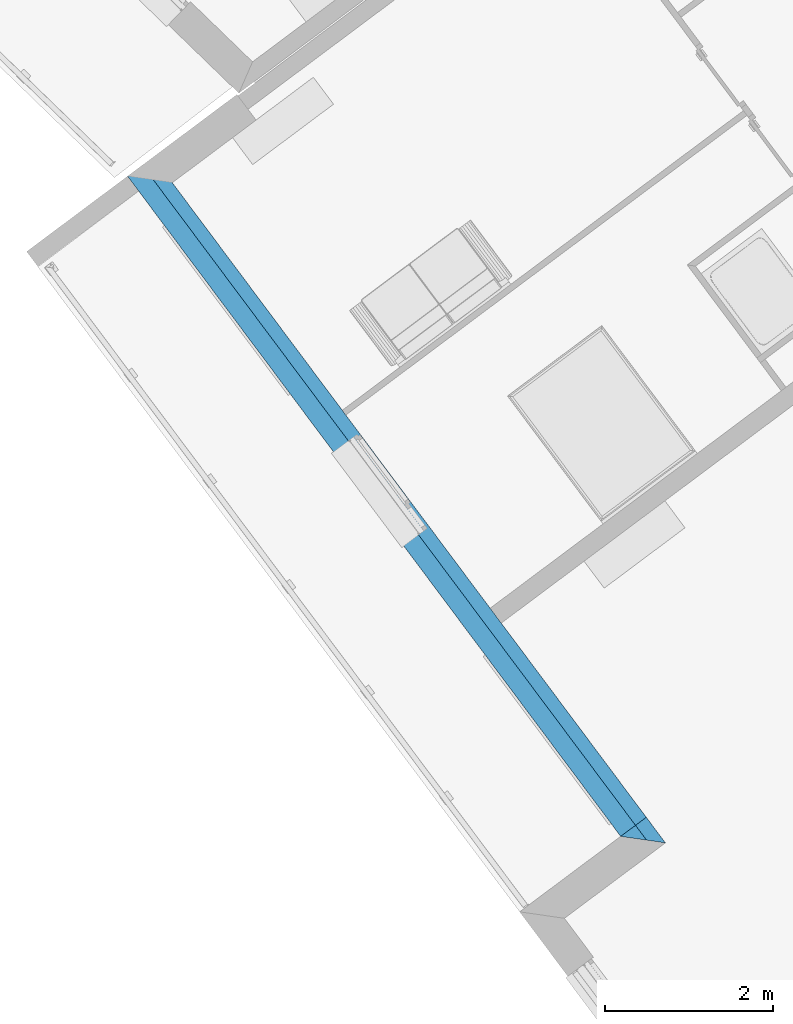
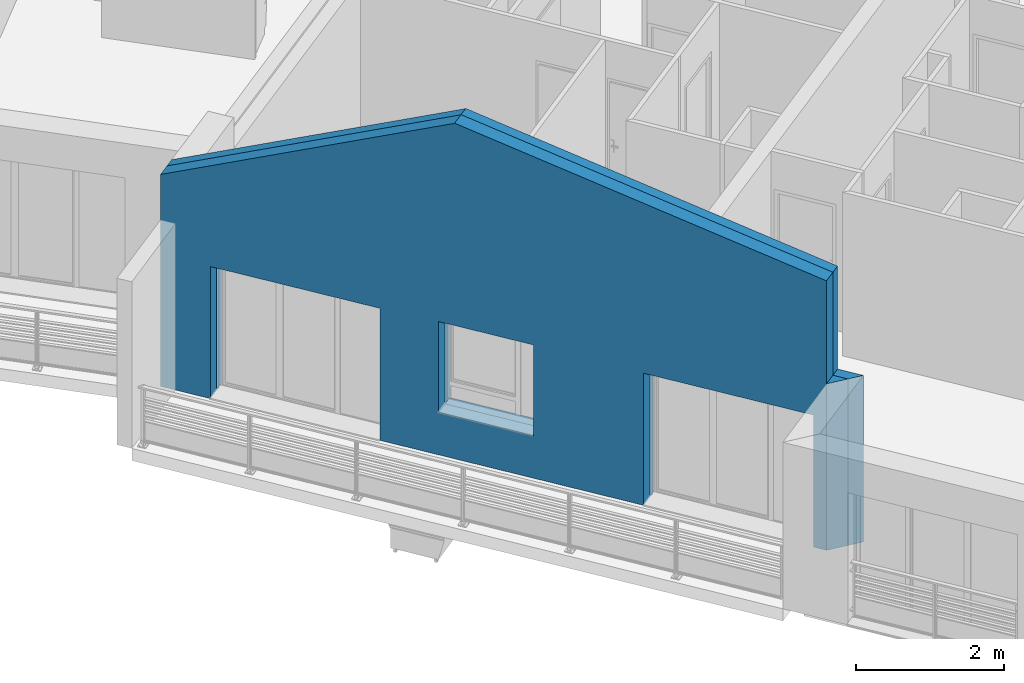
# One storey, part 84 of 121: 2 building element parts, 3 openings, 1 element without a shape of its own.
"""IFC2X3 building model written with IfcOpenShell, lengths in metres."""

from ifc_helpers import new_model, entity, si_unit, converted_unit, derived_unit, money_unit, direction, frame, origin_with_axes, place, context, subcontext, project, spatial, polyline, outline, extrude, boolean, faceted_brep, material, type_object, element, aggregate, save


model = new_model("IFC2X3")

# Units and contexts
model_context = context("Model", 3, precision=1e-05, world=origin_with_axes(), true_north=direction((0.0, 1.0)))
body_context = subcontext(model_context, "Body", "Model", "MODEL_VIEW")
ifc_project = project(units=[si_unit("LENGTHUNIT", "METRE"), si_unit("AREAUNIT", "SQUARE_METRE"), si_unit("VOLUMEUNIT", "CUBIC_METRE"), converted_unit("PLANEANGLEUNIT", "DEGREE", entity("IfcPlaneAngleMeasure", 0.0174532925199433), si_unit("PLANEANGLEUNIT", "RADIAN"), dimensions=[0, 0, 0, 0, 0, 0, 0]), money_unit("CHF"), converted_unit("TIMEUNIT", "Year", entity("IfcTimeMeasure", 31557600.0), si_unit("TIMEUNIT", "SECOND"), dimensions=[0, 0, 1, 0, 0, 0, 0]), si_unit("MASSUNIT", "GRAM", prefix="KILO"), si_unit("THERMODYNAMICTEMPERATUREUNIT", "DEGREE_CELSIUS"), si_unit("LUMINOUSINTENSITYUNIT", "LUMEN"), si_unit("ENERGYUNIT", "JOULE", prefix="MEGA"), derived_unit("THERMALCONDUCTANCEUNIT", [(si_unit("POWERUNIT", "WATT"), 1), (si_unit("LENGTHUNIT", "METRE"), -1), (si_unit("THERMODYNAMICTEMPERATUREUNIT", "KELVIN"), -1)]), derived_unit("SPECIFICHEATCAPACITYUNIT", [(si_unit("ENERGYUNIT", "JOULE"), 1), (si_unit("MASSUNIT", "GRAM", prefix="KILO"), -1), (si_unit("THERMODYNAMICTEMPERATUREUNIT", "KELVIN"), -1)]), derived_unit("MASSDENSITYUNIT", [(si_unit("MASSUNIT", "GRAM", prefix="KILO"), 1), (si_unit("VOLUMEUNIT", "CUBIC_METRE"), -1)])], contexts=[model_context])

# Site, building, storey
site_placement = place(None, origin_with_axes())
site = spatial("IfcSite", under=ifc_project, at=site_placement, Name="Site", CompositionType="ELEMENT")
building_placement = place(site_placement, origin_with_axes())
building = spatial("IfcBuilding", under=site, at=building_placement, Name="Bâtiment", CompositionType="ELEMENT")
storey_placement = place(building_placement, frame((0.0, 0.0, 2.75), z_axis=(0.0, 0.0, 1.0), x_axis=(1.0, 0.0, 0.0)))
storey = spatial("IfcBuildingStorey", under=building, at=storey_placement, Name="Etage 1", CompositionType="ELEMENT", Elevation=2.75)

# Wall, openings, building element parts
wall_type = type_object("IfcWallType", Name="isol int 22+16 0836643197 380", PredefinedType="NOTDEFINED")
wall_placement = place(storey_placement, frame((9528.242165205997, -1076.621814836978, 57.7), z_axis=(0.0, 0.0, 1.0), x_axis=(0.5984464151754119, -0.8011628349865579, 0.0)))
wall = element("IfcWall", 1, at=wall_placement, inside=storey, type_object=wall_type, Name="Mur-113")
opening_1_placement = place(wall_placement, frame((1.982307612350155, 0.0, 0.0), z_axis=(0.0, 0.0, 1.0), x_axis=(1.0, 0.0, 0.0)))
element("IfcOpeningElement", 2, at=opening_1_placement, cuts=wall, Name="Fen-045", context=body_context, shape_type="Brep", body=[
    faceted_brep([(-1.25, 0.4799999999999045, 2.18), (1.250000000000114, 0.4799999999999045, 2.18), (1.25, 5.081409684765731, 2.18), (-1.25, 5.081409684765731, 2.18), (-1.25, 0.4799999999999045, 2.380000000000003), (1.250000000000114, 0.4799999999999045, 2.380000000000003), (1.25, 0.2999999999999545, 2.18), (1.25, 0.2999999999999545, 0.0), (1.25, 5.081409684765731, 0.0), (-1.25, 5.081409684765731, 0.0), (-1.249999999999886, 0.2999999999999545, 2.18), (-1.249999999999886, 0.2999999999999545, 0.0), (-1.25, 0.2199999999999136, 2.18), (-1.25, 0.2199999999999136, 2.380000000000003), (1.250000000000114, 0.2200000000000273, 2.380000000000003), (1.250000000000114, 0.2200000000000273, 2.18), (1.25, -4.701409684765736, 2.18), (1.25, -4.701409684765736, 0.0), (-1.25, -4.701409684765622, 0.0), (-1.25, -4.701409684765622, 2.18)], [[[0, 1, 2, 3]], [[1, 0, 4, 5]], [[1, 6, 7, 8, 2]], [[2, 8, 9, 3]], [[10, 0, 3, 9, 11]], [[0, 10, 12, 13, 4]], [[14, 5, 4, 13]], [[6, 1, 5, 14, 15]], [[6, 15, 16, 17, 7]], [[7, 11, 9, 8]], [[12, 10, 11, 18, 19]], [[12, 15, 14, 13]], [[15, 12, 19, 16]], [[19, 18, 17, 16]], [[11, 7, 17, 18]]]),
])
opening_2_placement = place(wall_placement, frame((4.792672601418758, 0.0, 0.7000000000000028), z_axis=(0.0, 0.0, 1.0), x_axis=(1.0, 0.0, 0.0)))
element("IfcOpeningElement", 3, at=opening_2_placement, cuts=wall, Name="Fen-045", context=body_context, shape_type="Brep", body=[
    faceted_brep([(-0.7000000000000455, 0.4799999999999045, 1.5), (0.7000000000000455, 0.4799999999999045, 1.5), (0.7000000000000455, 5.081409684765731, 1.5), (-0.7000000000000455, 5.081409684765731, 1.5), (-0.7000000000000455, 0.4799999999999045, 1.700000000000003), (0.7000000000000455, 0.4799999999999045, 1.700000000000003), (0.7000000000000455, 0.2999999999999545, 1.5), (0.7000000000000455, 0.2999999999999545, 0.0), (0.7000000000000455, 5.081409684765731, 0.0), (-0.7000000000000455, 5.081409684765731, 0.0), (-0.7000000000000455, 0.2999999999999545, 1.5), (-0.7000000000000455, 0.2999999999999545, 0.0), (-0.7000000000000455, 0.2200000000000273, 1.5), (-0.7000000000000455, 0.2200000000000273, 1.700000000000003), (0.7000000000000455, 0.2200000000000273, 1.700000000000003), (0.7000000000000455, 0.2200000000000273, 1.5), (0.7000000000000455, -4.701409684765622, 1.5), (0.7000000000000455, -4.701409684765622, 0.0), (-0.7000000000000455, -4.701409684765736, 0.0), (-0.7000000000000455, -4.701409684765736, 1.5)], [[[0, 1, 2, 3]], [[1, 0, 4, 5]], [[1, 6, 7, 8, 2]], [[2, 8, 9, 3]], [[10, 0, 3, 9, 11]], [[0, 10, 12, 13, 4]], [[14, 5, 4, 13]], [[6, 1, 5, 14, 15]], [[6, 15, 16, 17, 7]], [[7, 11, 9, 8]], [[12, 10, 11, 18, 19]], [[12, 15, 14, 13]], [[15, 12, 19, 16]], [[19, 18, 17, 16]], [[11, 7, 17, 18]]]),
])
opening_3_placement = place(wall_placement, frame((8.361343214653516, 0.0, 0.0), z_axis=(0.0, 0.0, 1.0), x_axis=(1.0, 0.0, 0.0)))
element("IfcOpeningElement", 4, at=opening_3_placement, cuts=wall, Name="Fen-045", context=body_context, shape_type="Brep", body=[
    faceted_brep([(-1.250000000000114, 0.4800000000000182, 2.18), (1.25, 0.4800000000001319, 2.18), (1.25, 5.081409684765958, 2.18), (-1.250000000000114, 5.081409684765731, 2.18), (-1.250000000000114, 0.4800000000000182, 2.380000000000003), (1.25, 0.4800000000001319, 2.380000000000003), (1.25, 0.3000000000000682, 2.18), (1.25, 0.3000000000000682, 0.0), (1.25, 5.081409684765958, 0.0), (-1.250000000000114, 5.081409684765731, 0.0), (-1.250000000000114, 0.3000000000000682, 2.18), (-1.250000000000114, 0.3000000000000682, 0.0), (-1.25, 0.220000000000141, 2.18), (-1.25, 0.220000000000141, 2.380000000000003), (1.25, 0.220000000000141, 2.380000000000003), (1.25, 0.220000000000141, 2.18), (1.249999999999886, -4.701409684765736, 2.18), (1.249999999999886, -4.701409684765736, 0.0), (-1.25, -4.701409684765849, 0.0), (-1.25, -4.701409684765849, 2.18)], [[[0, 1, 2, 3]], [[1, 0, 4, 5]], [[1, 6, 7, 8, 2]], [[2, 8, 9, 3]], [[10, 0, 3, 9, 11]], [[0, 10, 12, 13, 4]], [[14, 5, 4, 13]], [[6, 1, 5, 14, 15]], [[6, 15, 16, 17, 7]], [[7, 11, 9, 8]], [[12, 10, 11, 18, 19]], [[12, 15, 14, 13]], [[15, 12, 19, 16]], [[19, 18, 17, 16]], [[11, 7, 17, 18]]]),
])
ifc_material_1 = material(Name="Isolant styromousse 301821074")
building_element_part_1_placement = place(wall_placement, origin_with_axes())
building_element_part_1 = element("IfcBuildingElementPart", 5, at=building_element_part_1_placement, material=ifc_material_1, Name="Isolant styromousse 301821074", context=body_context, shape_type="CSG", body=[
    boolean("DIFFERENCE", boolean("DIFFERENCE", extrude(outline(polyline([(-3.377635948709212e-10, 0.2199999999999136), (10.18369175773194, 0.2199999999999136), (10.18369175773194, 0.3799999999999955), (-3.377635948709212e-10, 0.3799999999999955), (-3.377635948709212e-10, 0.2199999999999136)])), origin_with_axes(), (0.0, 0.0, 1.0), 5.750000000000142), faceted_brep([(10.18369175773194, 0.3799999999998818, 0.0), (10.18369175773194, 0.3799999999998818, 2.749999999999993), (10.18369175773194, 0.3799999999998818, 5.750000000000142), (10.18369175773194, 0.2199999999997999, 5.750000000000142), (10.18369175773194, 0.2199999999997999, 0.0), (10.02369175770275, 0.2199999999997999, 0.0), (10.02369175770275, 0.2199999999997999, 2.749999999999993), (0.379999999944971, 0.3800000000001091, 3.499080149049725), (0.379999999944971, 0.3800000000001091, 0.0), (-3.377635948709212e-10, 0.3799999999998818, 0.0), (-3.377635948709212e-10, 0.3799999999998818, 5.750000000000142), (9.803691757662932, 0.3800000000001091, 2.749999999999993), (9.803691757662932, 0.3800000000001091, 4.451071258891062), (4.329239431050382, 0.3800000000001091, 5.541526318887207), (4.329239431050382, 0.3800000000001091, 5.539071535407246), (0.0006583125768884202, 0.3799999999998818, 3.499080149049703), (-3.378772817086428e-10, 0.2199999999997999, 5.750000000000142), (-3.378772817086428e-10, 0.2199999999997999, 0.0), (0.2199999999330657, 0.2199999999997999, 0.0), (0.2199999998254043, 0.2199999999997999, 3.499080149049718), (0.0003811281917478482, 0.2199999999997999, 3.499080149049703), (4.329239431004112, 0.2199999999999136, 5.539202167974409), (4.329239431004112, 0.2199999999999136, 5.541526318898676), (9.803691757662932, 0.2199999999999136, 4.451071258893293), (9.803691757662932, 0.2199999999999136, 2.749999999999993)], [[[0, 1, 2, 3, 4]], [[1, 0, 5, 6]], [[7, 8, 9, 10, 2, 1, 11, 12, 13, 14, 15]], [[10, 16, 3, 2]], [[6, 5, 4, 3, 16, 17, 18, 19, 20, 21, 22, 23, 24]], [[5, 0, 4]], [[11, 1, 6, 24]], [[8, 7, 19, 18]], [[8, 18, 17, 9]], [[10, 9, 17, 16]], [[12, 11, 24, 23]], [[13, 12, 23, 22]], [[14, 13, 22, 21]], [[15, 14, 21, 20]], [[7, 15, 20, 19]]])), faceted_brep([(0.2199999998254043, 0.2199999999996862, 3.499080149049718), (0.219999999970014, 0.2200000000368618, 0.0), (-3.378772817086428e-10, 0.2199999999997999, 0.0), (-3.378772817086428e-10, 0.2199999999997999, 5.750000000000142), (10.18369175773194, 0.2199999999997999, 5.750000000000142), (10.18369175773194, 0.2199999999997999, 0.0), (10.02369175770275, 0.2199999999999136, 0.0), (10.02369175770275, 0.2199999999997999, 2.749999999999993), (9.803691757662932, 0.2199999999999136, 2.749999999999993), (9.803691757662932, 0.2199999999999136, 4.451071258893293), (4.329239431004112, 0.2199999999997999, 5.541526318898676), (4.329239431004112, 0.2199999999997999, 5.539202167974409), (0.0003811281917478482, 0.2199999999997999, 3.499080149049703), (-3.378772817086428e-10, 0.0, 3.499080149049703), (0.0, 0.0, 0.0), (-3.378772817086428e-10, 0.0, 5.750000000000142), (10.18369175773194, 0.0, 5.750000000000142), (10.18369175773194, 0.0, 0.0), (9.803691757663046, 0.0, 0.0), (9.803691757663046, 0.0, 2.749999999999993), (9.803691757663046, 0.0, 4.451071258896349), (4.329239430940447, 0.0, 5.541526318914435), (4.329239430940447, 0.0, 5.539381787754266)], [[[0, 1, 2, 3, 4, 5, 6, 7, 8, 9, 10, 11, 12]], [[1, 0, 13, 14]], [[1, 14, 2]], [[14, 13, 15, 3, 2]], [[3, 15, 16, 4]], [[16, 17, 5, 4]], [[18, 6, 5, 17]], [[7, 6, 18, 19]], [[8, 7, 19]], [[9, 8, 19, 20]], [[10, 9, 20, 21]], [[11, 10, 21, 22]], [[12, 11, 22, 13]], [[0, 12, 13]], [[19, 18, 17, 16, 15, 13, 22, 21, 20]]])),
])
ifc_material_2 = material(Name="Parpaing 312445824")
building_element_part_2_placement = place(wall_placement, origin_with_axes())
building_element_part_2 = element("IfcBuildingElementPart", 6, at=building_element_part_2_placement, material=ifc_material_2, Name="Parpaing 312445824", context=body_context, shape_type="CSG", body=[
    boolean("DIFFERENCE", boolean("DIFFERENCE", extrude(outline(polyline([(-3.377635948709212e-10, 0.0), (10.18369175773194, 0.0), (10.18369175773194, 0.2199999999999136), (-3.377635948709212e-10, 0.2199999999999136), (-3.377635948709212e-10, 0.0)])), origin_with_axes(), (0.0, 0.0, 1.0), 5.750000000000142), faceted_brep([(10.18369175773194, 0.3799999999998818, 0.0), (10.18369175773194, 0.3799999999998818, 2.749999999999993), (10.18369175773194, 0.3799999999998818, 5.750000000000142), (10.18369175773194, 0.2199999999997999, 5.750000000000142), (10.18369175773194, 0.2199999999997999, 0.0), (10.02369175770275, 0.2199999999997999, 0.0), (10.02369175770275, 0.2199999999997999, 2.749999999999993), (0.379999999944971, 0.3800000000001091, 3.499080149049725), (0.379999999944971, 0.3800000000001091, 0.0), (-3.377635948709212e-10, 0.3799999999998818, 0.0), (-3.377635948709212e-10, 0.3799999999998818, 5.750000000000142), (9.803691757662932, 0.3800000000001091, 2.749999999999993), (9.803691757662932, 0.3800000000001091, 4.451071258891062), (4.329239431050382, 0.3800000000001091, 5.541526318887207), (4.329239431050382, 0.3800000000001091, 5.539071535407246), (0.0006583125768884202, 0.3799999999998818, 3.499080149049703), (-3.378772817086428e-10, 0.2199999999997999, 5.750000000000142), (-3.378772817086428e-10, 0.2199999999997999, 0.0), (0.2199999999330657, 0.2199999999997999, 0.0), (0.2199999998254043, 0.2199999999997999, 3.499080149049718), (0.0003811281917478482, 0.2199999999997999, 3.499080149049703), (4.329239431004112, 0.2199999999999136, 5.539202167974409), (4.329239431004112, 0.2199999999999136, 5.541526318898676), (9.803691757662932, 0.2199999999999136, 4.451071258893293), (9.803691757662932, 0.2199999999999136, 2.749999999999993)], [[[0, 1, 2, 3, 4]], [[1, 0, 5, 6]], [[7, 8, 9, 10, 2, 1, 11, 12, 13, 14, 15]], [[10, 16, 3, 2]], [[6, 5, 4, 3, 16, 17, 18, 19, 20, 21, 22, 23, 24]], [[5, 0, 4]], [[11, 1, 6, 24]], [[8, 7, 19, 18]], [[8, 18, 17, 9]], [[10, 9, 17, 16]], [[12, 11, 24, 23]], [[13, 12, 23, 22]], [[14, 13, 22, 21]], [[15, 14, 21, 20]], [[7, 15, 20, 19]]])), faceted_brep([(0.2199999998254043, 0.2199999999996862, 3.499080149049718), (0.219999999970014, 0.2200000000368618, 0.0), (-3.378772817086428e-10, 0.2199999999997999, 0.0), (-3.378772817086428e-10, 0.2199999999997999, 5.750000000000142), (10.18369175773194, 0.2199999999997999, 5.750000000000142), (10.18369175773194, 0.2199999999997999, 0.0), (10.02369175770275, 0.2199999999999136, 0.0), (10.02369175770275, 0.2199999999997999, 2.749999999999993), (9.803691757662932, 0.2199999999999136, 2.749999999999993), (9.803691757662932, 0.2199999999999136, 4.451071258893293), (4.329239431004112, 0.2199999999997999, 5.541526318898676), (4.329239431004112, 0.2199999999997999, 5.539202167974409), (0.0003811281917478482, 0.2199999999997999, 3.499080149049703), (-3.378772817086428e-10, 0.0, 3.499080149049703), (0.0, 0.0, 0.0), (-3.378772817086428e-10, 0.0, 5.750000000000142), (10.18369175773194, 0.0, 5.750000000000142), (10.18369175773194, 0.0, 0.0), (9.803691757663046, 0.0, 0.0), (9.803691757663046, 0.0, 2.749999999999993), (9.803691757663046, 0.0, 4.451071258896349), (4.329239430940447, 0.0, 5.541526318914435), (4.329239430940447, 0.0, 5.539381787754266)], [[[0, 1, 2, 3, 4, 5, 6, 7, 8, 9, 10, 11, 12]], [[1, 0, 13, 14]], [[1, 14, 2]], [[14, 13, 15, 3, 2]], [[3, 15, 16, 4]], [[16, 17, 5, 4]], [[18, 6, 5, 17]], [[7, 6, 18, 19]], [[8, 7, 19]], [[9, 8, 19, 20]], [[10, 9, 20, 21]], [[11, 10, 21, 22]], [[12, 11, 22, 13]], [[0, 12, 13]], [[19, 18, 17, 16, 15, 13, 22, 21, 20]]])),
])
aggregate(wall, [building_element_part_1, building_element_part_2])

save(model, "model.ifc")
